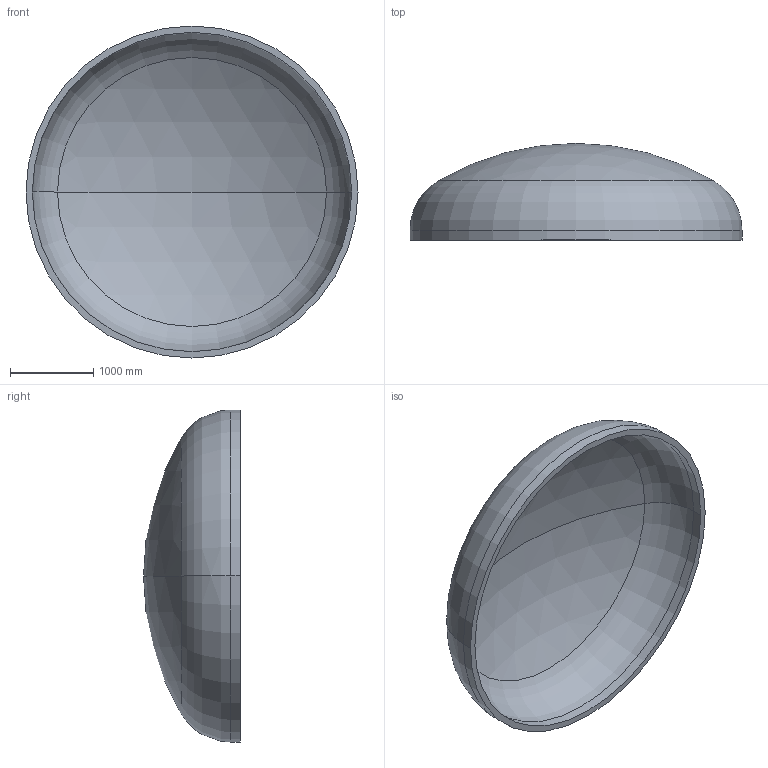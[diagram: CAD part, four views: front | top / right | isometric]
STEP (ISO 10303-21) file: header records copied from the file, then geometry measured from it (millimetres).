
FILE_DESCRIPTION (( 'STEP AP203' ), '1' );
FILE_NAME ('DIN 28013 Korbbogenform_-_Boden DIN 28013 - 4000 x 120 - I - s=76.step', '2016-07-01T22:39:35', ( '' ), ( '' ), 'SwSTEP 2.0', 'SolidWorks 2013', '' );
FILE_SCHEMA (( 'CONFIG_CONTROL_DESIGN' ));
Length unit declared in the file: millimetre
Products named in the file (1): DIN 28013 Korbbogenform_-_Boden DIN 28013 - 4000 x 120 - I - s=76
Bounding box: 4000 x 1166.93 x 4000 mm (x, y, z)
Volume: 1402036997.2 mm3; surface area: 37844693 mm2
Topology: 1 solids, 1 shells, 13 faces, 24 edges, 14 vertices
Faces by surface type: torus 4, cylinder 4, sphere 4, plane 1
Entity records: 407 total; most frequent: DIRECTION 72, CARTESIAN_POINT 52, ORIENTED_EDGE 48, AXIS2_PLACEMENT_3D 34, EDGE_CURVE 24, CIRCLE 20, VERTEX_POINT 14, EDGE_LOOP 14
